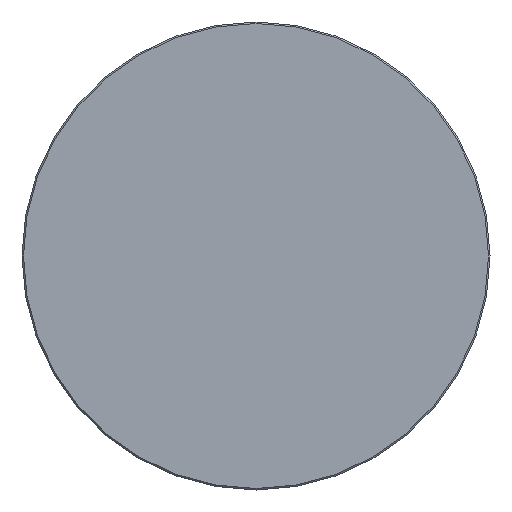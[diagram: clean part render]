
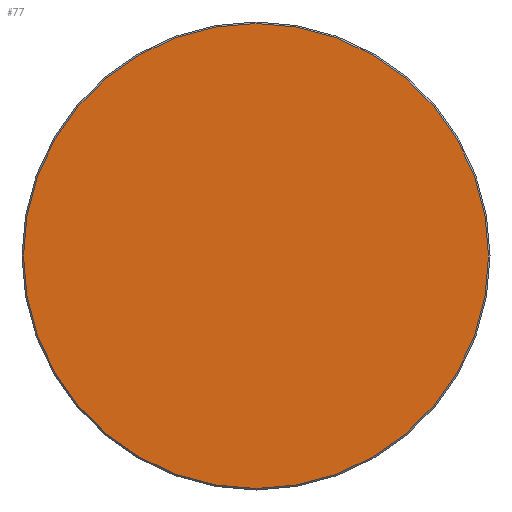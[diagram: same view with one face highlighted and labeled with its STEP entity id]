
A CAD part, left-side view. The second image highlights one B-rep face of the part: STEP entity #77.
In plain terms, the highlighted planar face has unit normal (-1, 0, 0).
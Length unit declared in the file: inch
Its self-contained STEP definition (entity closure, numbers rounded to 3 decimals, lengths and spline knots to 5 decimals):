
#11 = DIRECTION ( 'NONE',  ( -1., 0., 0. ) ) ;
#15 = ORIENTED_EDGE ( 'NONE', *, *, #39, .T. ) ;
#25 = CARTESIAN_POINT ( 'NONE',  ( 0., 0., 0. ) ) ;
#37 = PLANE ( 'NONE',  #114 ) ;
#39 = EDGE_CURVE ( 'NONE', #219, #358, #326, .T. ) ;
#50 = DIRECTION ( 'NONE',  ( -1., 0., 0. ) ) ;
#66 = CARTESIAN_POINT ( 'NONE',  ( 0., 0., 0. ) ) ;
#72 = DIRECTION ( 'NONE',  ( 0., -1., 0. ) ) ;
#77 = ADVANCED_FACE ( 'NONE', ( #243 ), #37, .T. ) ;
#95 = CARTESIAN_POINT ( 'NONE',  ( 0., 0., 0. ) ) ;
#114 = AXIS2_PLACEMENT_3D ( 'NONE', #66, #297, #305 ) ;
#128 = AXIS2_PLACEMENT_3D ( 'NONE', #95, #11, #72 ) ;
#135 = DIRECTION ( 'NONE',  ( 0., -1., 0. ) ) ;
#162 = CARTESIAN_POINT ( 'NONE',  ( 0., 0.621, 0. ) ) ;
#219 = VERTEX_POINT ( 'NONE', #162 ) ;
#226 = CIRCLE ( 'NONE', #355, 0.621 ) ;
#227 = CARTESIAN_POINT ( 'NONE',  ( 0., -0.621, 0. ) ) ;
#236 = EDGE_LOOP ( 'NONE', ( #15, #290 ) ) ;
#243 = FACE_OUTER_BOUND ( 'NONE', #236, .T. ) ;
#290 = ORIENTED_EDGE ( 'NONE', *, *, #340, .T. ) ;
#297 = DIRECTION ( 'NONE',  ( -1., 0., 0. ) ) ;
#305 = DIRECTION ( 'NONE',  ( 0., -1., 0. ) ) ;
#326 = CIRCLE ( 'NONE', #128, 0.621 ) ;
#340 = EDGE_CURVE ( 'NONE', #358, #219, #226, .T. ) ;
#355 = AXIS2_PLACEMENT_3D ( 'NONE', #25, #50, #135 ) ;
#358 = VERTEX_POINT ( 'NONE', #227 ) ;
